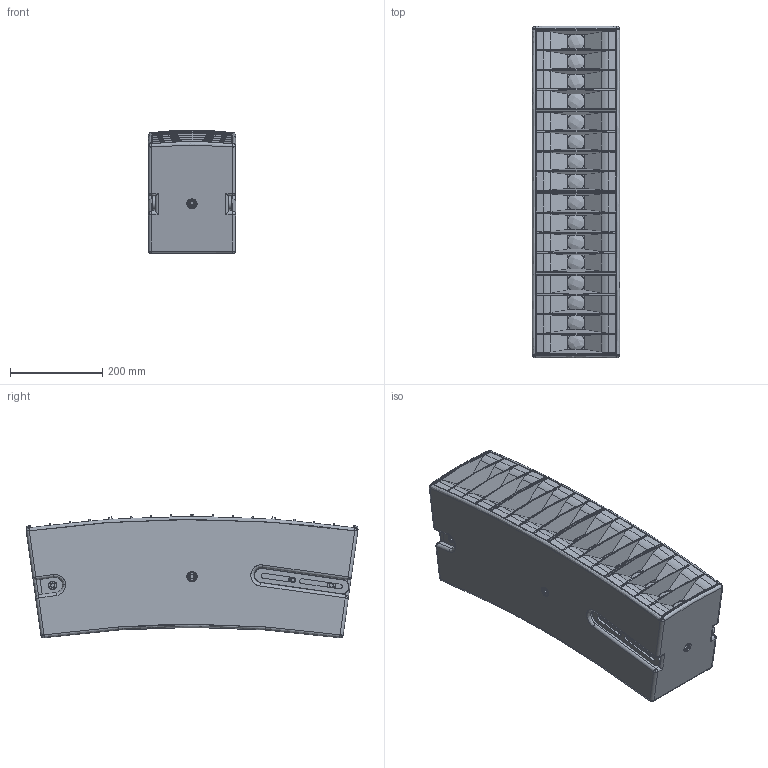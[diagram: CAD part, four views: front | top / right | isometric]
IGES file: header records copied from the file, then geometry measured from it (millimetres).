
Start section: SolidWorks IGES file using analytic representation for surfaces
Global section: file name: C:\Dokumente und Einstellungen\PC_Fabian\Desktop\G-Serie\Seeburg_GL16c.IGS; native system: SolidWorks 2009; preprocessor: SolidWorks 2009; author: PC_Fabian; date: 121015.153121; units: millimetre
Bounding box: 189 x 718.24 x 267.45 mm (x, y, z)
Surface area: 1737105.3 mm2 (no closed solid volume)
Topology: 0 solids, 0 shells, 1048 faces, 14482 edges, 14472 vertices
Faces by surface type: bspline 546, revolution 502
